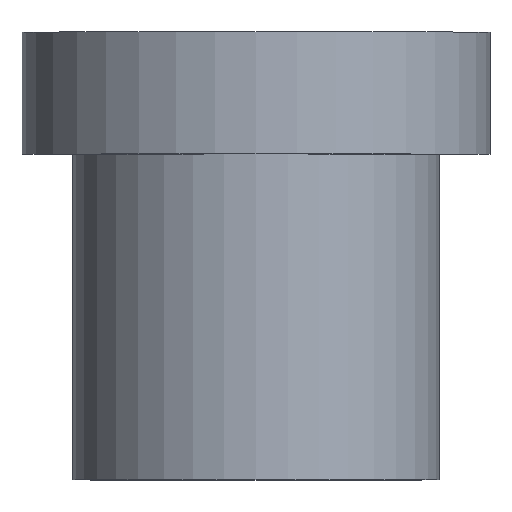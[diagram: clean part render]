
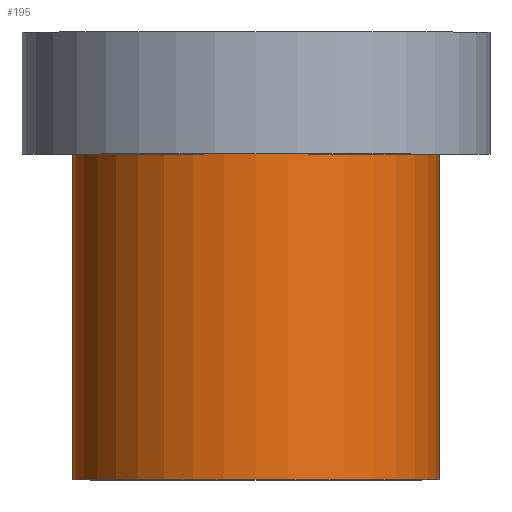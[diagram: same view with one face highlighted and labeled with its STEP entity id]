
A CAD part, top view. The second image highlights one B-rep face of the part: STEP entity #195.
In plain terms, the highlighted cylindrical face has radius 9 mm (diameter 18 mm), a full revolution.
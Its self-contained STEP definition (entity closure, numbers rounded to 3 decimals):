
#32=ORIENTED_EDGE('',*,*,#50,.T.);
#33=ORIENTED_EDGE('',*,*,#49,.F.);
#49=EDGE_CURVE('',#59,#59,#69,.T.);
#50=EDGE_CURVE('',#60,#60,#70,.T.);
#59=VERTEX_POINT('',#280);
#60=VERTEX_POINT('',#283);
#69=CIRCLE('',#213,9.);
#70=CIRCLE('',#215,9.);
#82=EDGE_LOOP('',(#32));
#83=EDGE_LOOP('',(#33));
#102=FACE_BOUND('',#82,.T.);
#103=FACE_BOUND('',#83,.T.);
#117=CYLINDRICAL_SURFACE('',#214,9.);
#195=ADVANCED_FACE('',(#102,#103),#117,.T.);
#213=AXIS2_PLACEMENT_3D('',#279,#241,#242);
#214=AXIS2_PLACEMENT_3D('',#281,#243,#244);
#215=AXIS2_PLACEMENT_3D('',#282,#245,#246);
#241=DIRECTION('',(0.,-1.,0.));
#242=DIRECTION('',(0.,0.,-1.));
#243=DIRECTION('',(0.,-1.,0.));
#244=DIRECTION('',(0.,0.,-1.));
#245=DIRECTION('',(0.,-1.,0.));
#246=DIRECTION('',(0.,0.,-1.));
#279=CARTESIAN_POINT('',(0.,0.,0.));
#280=CARTESIAN_POINT('',(0.,0.,-9.));
#281=CARTESIAN_POINT('',(0.,0.,0.));
#282=CARTESIAN_POINT('',(0.,16.,0.));
#283=CARTESIAN_POINT('',(0.,16.,-9.));
